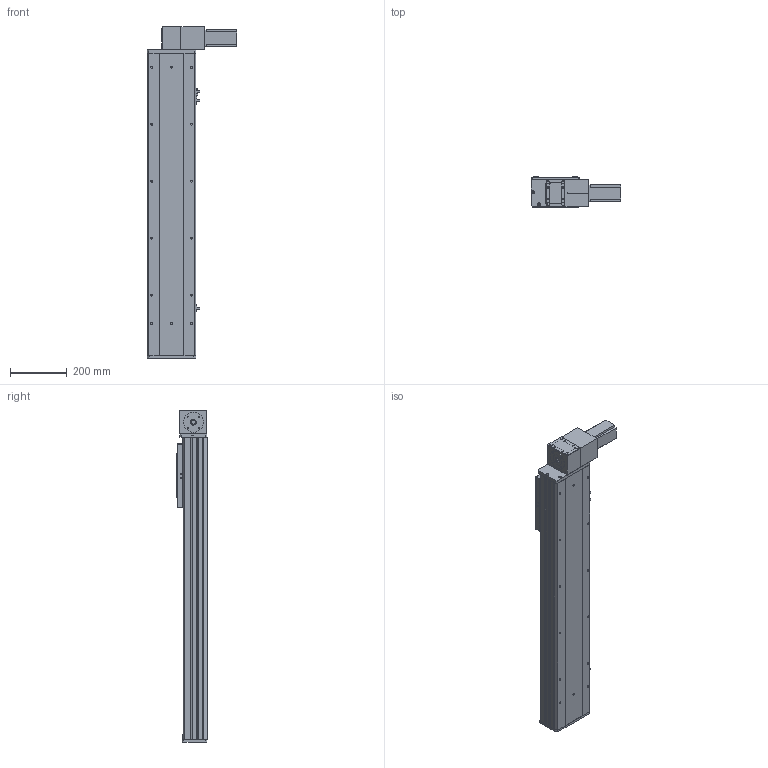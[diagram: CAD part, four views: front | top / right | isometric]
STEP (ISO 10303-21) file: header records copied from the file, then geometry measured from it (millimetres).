
FILE_DESCRIPTION (( 'STEP AP203' ), '1' );
FILE_NAME ('Y170CB-D105-S750-BD-P400W.STEP', '2020-02-20T08:26:49', ( '微软用户' ), ( '微软中国' ), 'SwSTEP 2.0', 'SolidWorks 2017', '' );
FILE_SCHEMA (( 'CONFIG_CONTROL_DESIGN' ));
Length unit declared in the file: millimetre
Products named in the file (16): san松下电机400不带刹车----; 0C--雄赽釱俋欶-170; 70CB-掛极-; 70CB-詩湍--; --70CB --喘謫眊楊擘啣-; Y100-135俋离換覜ん--; 70CB-耜裔啣-; Y170CB-陔俋离換覜結え---; Y1埴倛裔; 70B喘謫眊----; 70C--詩湍揤踡え-; 0B薊粣ん眊-400W--; 70CB--耜裔; Y170CB-D105-S750-BD-P400W; B-源倛裔啣; 70C-雄赽釱-奻-
Assembly tree (19 placements, depth 2):
  Y170CB-D105-S750-BD-P400W
    B-源倛裔啣
    san松下电机400不带刹车----
    70CB-掛极-
    --70CB --喘謫眊楊擘啣-
    70CB-耜裔啣-  x2
    70C--詩湍揤踡え-  x2
    70CB--耜裔
    70C-雄赽釱-奻-
    0C--雄赽釱俋欶-170
    70CB-詩湍--
    Y100-135俋离換覜ん--  x3
    Y170CB-陔俋离換覜結え---
    Y1埴倛裔
    70B喘謫眊----
    0B薊粣ん眊-400W--
Bounding box: 313.5 x 107 x 1166 mm (x, y, z)
Volume: 5842223 mm3; surface area: 1957553.9 mm2
Topology: 19 solids, 19 shells, 912 faces, 2402 edges, 1592 vertices
Faces by surface type: cylinder 466, plane 422, cone 24
Entity records: 28427 total; most frequent: CARTESIAN_POINT 5266, DIRECTION 4623, ORIENTED_EDGE 4286, EDGE_CURVE 2143, AXIS2_PLACEMENT_3D 1701, VERTEX_POINT 1422, VECTOR 1221, LINE 1221
